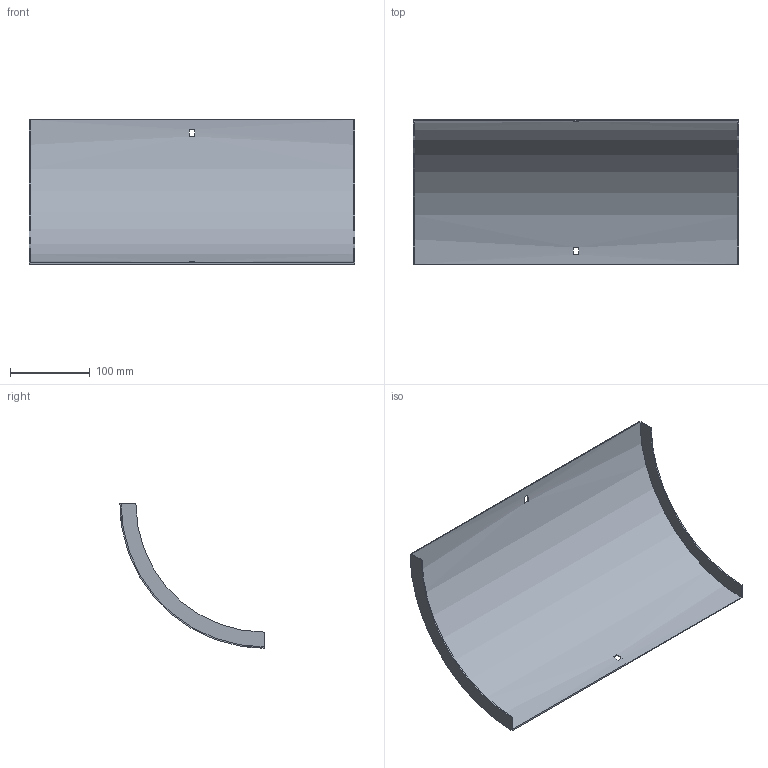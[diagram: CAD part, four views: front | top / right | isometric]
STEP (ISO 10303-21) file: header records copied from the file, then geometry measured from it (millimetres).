
FILE_DESCRIPTION (( 'STEP AP214' ), '1' );
FILE_NAME ('33N1C400.step', '2025-02-21T09:19:12', ( '' ), ( '' ), 'SwSTEP 2.0', 'SolidWorks 2023', '' );
FILE_SCHEMA (( 'AUTOMOTIVE_DESIGN' ));
Length unit declared in the file: millimetre
Products named in the file (1): 33N1C400
Bounding box: 407 x 180.5 x 180.5 mm (x, y, z)
Volume: 186997.5 mm3; surface area: 251515.2 mm2
Topology: 1 solids, 1 shells, 18 faces, 48 edges, 32 vertices
Faces by surface type: plane 14, cylinder 4
Entity records: 599 total; most frequent: DIRECTION 102, CARTESIAN_POINT 99, ORIENTED_EDGE 96, EDGE_CURVE 48, AXIS2_PLACEMENT_3D 35, VECTOR 32, VERTEX_POINT 32, LINE 32
